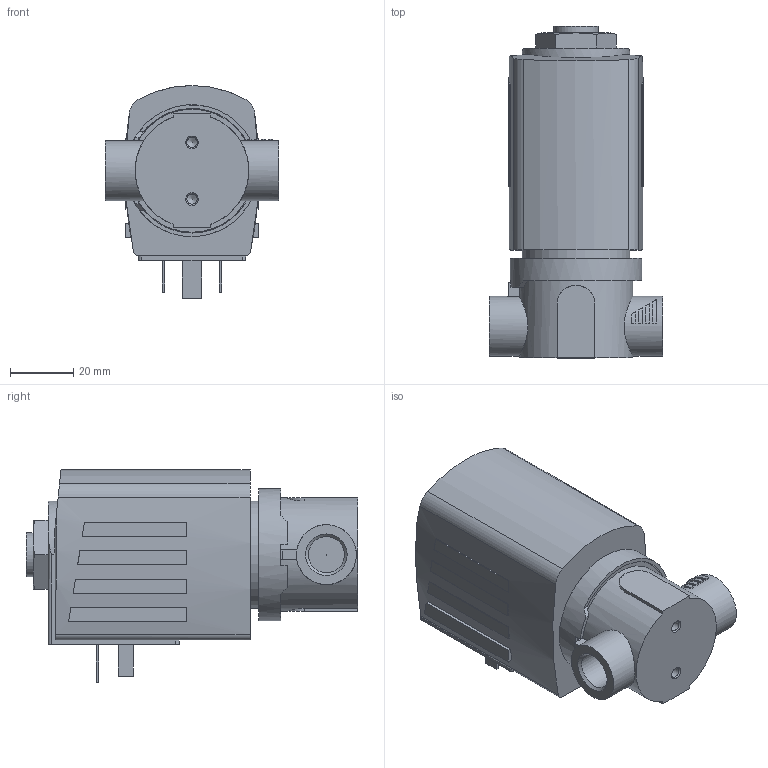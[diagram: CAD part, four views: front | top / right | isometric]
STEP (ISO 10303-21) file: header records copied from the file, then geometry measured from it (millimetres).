
FILE_DESCRIPTION( ( 'STEP AP214' ), '1' );
FILE_NAME( 'p:/temp/worker_16/temp/app_59_02018103123041768022185192d056f_000000_00_00_000000/format_0/6027-230245-2_2-way_Compact_Solenoid_Valve.stp', '2018-10-31T22:04:18', ( '' ), ( '' ), ' ', 'PARTsolutions', ' ' );
FILE_SCHEMA( ( 'AUTOMOTIVE_DESIGN { 1 0 10303 214 1 1 1 1 }' ) );
Length unit declared in the file: millimetre
Products named in the file (3): 6027-230245-2/2-way Compact Solenoid Valve,; HI_AC10ex-42SG=k-Plan-Coil; HI_V027-Gehaeuse  G 1/4    VA
Assembly tree (2 placements, depth 2):
  6027-230245-2/2-way Compact Solenoid Valve,
    HI_AC10ex-42SG=k-Plan-Coil
    HI_V027-Gehaeuse  G 1/4    VA
Bounding box: 55 x 105.2 x 67.5 mm (x, y, z)
Volume: 178475.8 mm3; surface area: 27151.7 mm2
Topology: 2 solids, 2 shells, 165 faces, 402 edges, 264 vertices
Faces by surface type: plane 118, cylinder 34, cone 13
Full cylindrical faces by diameter (mm): 0.2 x1, 2.013 x1, 3.242 x2, 11.445 x2, 14 x1, 19 x2, 34 x1, 36 x1, 39 x1, 39.5 x1, 41.8 x1
Entity records: 6333 total; most frequent: CARTESIAN_POINT 1148, DIRECTION 804, ORIENTED_EDGE 740, EDGE_CURVE 370, AXIS2_PLACEMENT_3D 288, VERTEX_POINT 255, LINE 228, VECTOR 228
